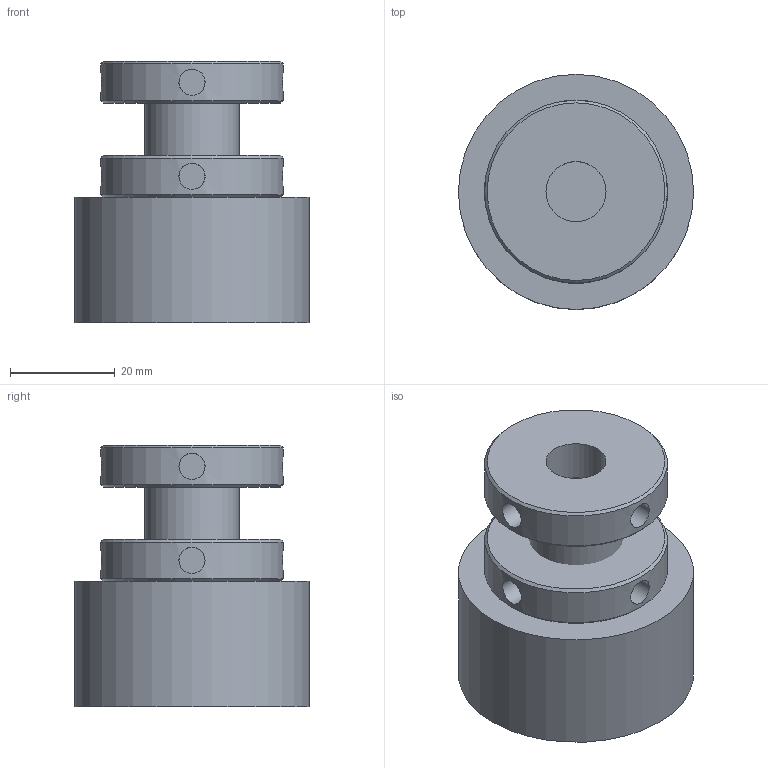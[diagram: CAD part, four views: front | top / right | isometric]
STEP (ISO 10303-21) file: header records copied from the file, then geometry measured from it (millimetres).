
FILE_DESCRIPTION(/* description */ (''),/* implementation_level */ '2;1');
FILE_NAME(/* name */ 'SU21-S050.stp',/* time_stamp */ '2022-08-04T14:18:18+08:00',/* author */ (''),/* organization */ (''),/* preprocessor_version */ 'ST-DEVELOPER v16.7',/* originating_system */ 'SIEMENS PLM Software NX 12.0',/* authorisation */ '');
FILE_SCHEMA (('AP203_CONFIGURATION_CONTROLLED_3D_DESIGN_OF_MECHANICAL_PARTS_AND_ASSEMBLIES_MIM_LF { 1 0 10303 403 2 1 2}'));
Length unit declared in the file: millimetre
Products named in the file (1): AdmiBC2CDACB2h1n
Bounding box: 45 x 45 x 50 mm (x, y, z)
Volume: 57272 mm3; surface area: 19920.8 mm2
Topology: 4 solids, 4 shells, 40 faces, 72 edges, 49 vertices
Faces by surface type: plane 19, cylinder 16, cone 5
Full cylindrical faces by diameter (mm): 5 x8, 11.5 x1, 16 x1, 18 x1, 35 x2, 40 x2, 45 x1
Entity records: 1327 total; most frequent: CARTESIAN_POINT 571, DIRECTION 140, EDGE_LOOP 74, ORIENTED_EDGE 74, AXIS2_PLACEMENT_3D 70, FACE_BOUND 60, ADVANCED_FACE 40, VERTEX_POINT 37
